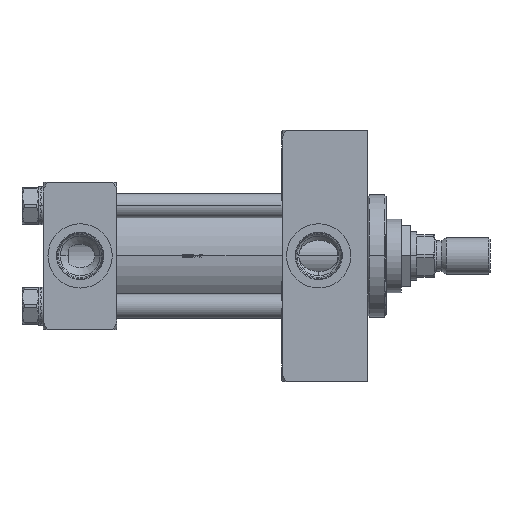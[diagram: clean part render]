
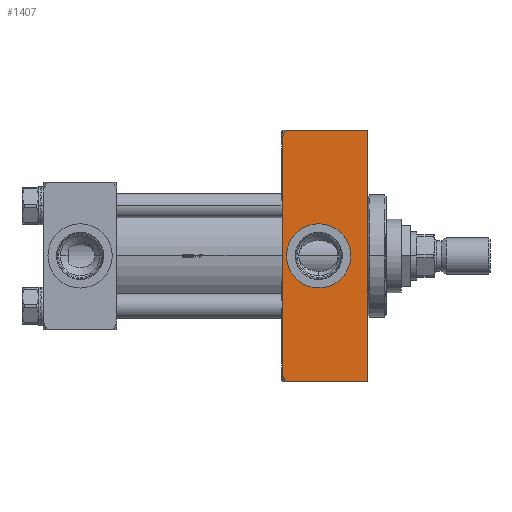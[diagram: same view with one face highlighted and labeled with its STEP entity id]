
A CAD part, top view. The second image highlights one B-rep face of the part: STEP entity #1407.
In plain terms, the highlighted planar face has unit normal (0, 0, 1).
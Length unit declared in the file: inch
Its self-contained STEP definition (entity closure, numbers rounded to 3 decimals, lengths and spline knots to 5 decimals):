
#587 = CARTESIAN_POINT ( 'NONE',  ( -3.125, 2.5625, 1.5 ) ) ;
#917 = CARTESIAN_POINT ( 'NONE',  ( -2.375, 0.65625, 1.5 ) ) ;
#1407 = ADVANCED_FACE ( 'NONE', ( #2612, #9584 ), #72615, .F. ) ;
#1452 = CARTESIAN_POINT ( 'NONE',  ( -3.11542, -2.42573, 1.5 ) ) ;
#2549 = DIRECTION ( 'NONE',  ( 0., 1., 0. ) ) ;
#2612 = FACE_OUTER_BOUND ( 'NONE', #48385, .T. ) ;
#3961 = B_SPLINE_CURVE_WITH_KNOTS ( 'NONE', 3,
 ( #25779, #58332, #8431, #38153, #26593, #57493, #69432, #13036, #1452, #63264, #64852, #20060 ),
 .UNSPECIFIED., .F., .F.,
 ( 4, 2, 2, 2, 2, 4 ),
 ( 0.00627, 0.00766, 0.00905, 0.00975, 0.01044, 0.01184 ),
 .UNSPECIFIED. ) ;
#5012 = ORIENTED_EDGE ( 'NONE', *, *, #13215, .F. ) ;
#5336 = CARTESIAN_POINT ( 'NONE',  ( -3.125, 2.3625, 1.5 ) ) ;
#5511 = LINE ( 'NONE', #24518, #12597 ) ;
#6083 = DIRECTION ( 'NONE',  ( 0., 1., 0. ) ) ;
#7045 = CIRCLE ( 'NONE', #64893, 0.65625 ) ;
#7243 = CARTESIAN_POINT ( 'NONE',  ( -3.04216, -2.5625, 1.5 ) ) ;
#7707 = EDGE_CURVE ( 'NONE', #18744, #30477, #38480, .T. ) ;
#8431 = CARTESIAN_POINT ( 'NONE',  ( -3.06292, -2.53233, 1.5 ) ) ;
#9584 = FACE_BOUND ( 'NONE', #80379, .T. ) ;
#9912 = CARTESIAN_POINT ( 'NONE',  ( -3.11296, 2.43498, 1.5 ) ) ;
#10869 = VERTEX_POINT ( 'NONE', #5336 ) ;
#11173 = ORIENTED_EDGE ( 'NONE', *, *, #72413, .T. ) ;
#11616 = CARTESIAN_POINT ( 'NONE',  ( -2.375, -0.65625, 1.5 ) ) ;
#11698 = ORIENTED_EDGE ( 'NONE', *, *, #7707, .F. ) ;
#12597 = VECTOR ( 'NONE', #73556, 39.37008 ) ;
#12622 = EDGE_CURVE ( 'NONE', #77218, #50499, #51222, .T. ) ;
#13036 = CARTESIAN_POINT ( 'NONE',  ( -3.11257, -2.43453, 1.5 ) ) ;
#13215 = EDGE_CURVE ( 'NONE', #28218, #10869, #5511, .T. ) ;
#13433 = ORIENTED_EDGE ( 'NONE', *, *, #12622, .T. ) ;
#13541 = VERTEX_POINT ( 'NONE', #11616 ) ;
#14191 = VECTOR ( 'NONE', #20829, 39.37008 ) ;
#15011 = DIRECTION ( 'NONE',  ( 0., 1., 0. ) ) ;
#15341 = CARTESIAN_POINT ( 'NONE',  ( -3.12232, 2.39953, 1.5 ) ) ;
#15442 = ORIENTED_EDGE ( 'NONE', *, *, #39897, .F. ) ;
#15767 = CARTESIAN_POINT ( 'NONE',  ( -3.09065, 2.48554, 1.5 ) ) ;
#16175 = CARTESIAN_POINT ( 'NONE',  ( -3.04216, 2.5625, 1.5 ) ) ;
#17826 = ORIENTED_EDGE ( 'NONE', *, *, #53983, .F. ) ;
#18170 = VECTOR ( 'NONE', #38862, 39.37008 ) ;
#18506 = CARTESIAN_POINT ( 'NONE',  ( -2.375, 0., 1.5 ) ) ;
#18744 = VERTEX_POINT ( 'NONE', #79857 ) ;
#19997 = B_SPLINE_CURVE_WITH_KNOTS ( 'NONE', 3,
 ( #78324, #60241, #15341, #9912, #26857, #15767, #51986, #40055, #58602, #16175 ),
 .UNSPECIFIED., .F., .F.,
 ( 4, 2, 2, 2, 4 ),
 ( 0.00308, 0.00446, 0.00584, 0.00722, 0.0086 ),
 .UNSPECIFIED. ) ;
#20060 = CARTESIAN_POINT ( 'NONE',  ( -3.125, -2.3625, 1.5 ) ) ;
#20829 = DIRECTION ( 'NONE',  ( 1., 0., 0. ) ) ;
#24518 = CARTESIAN_POINT ( 'NONE',  ( -3.125, -2.5625, 1.5 ) ) ;
#24633 = DIRECTION ( 'NONE',  ( 0., 0., -1. ) ) ;
#25779 = CARTESIAN_POINT ( 'NONE',  ( -3.04216, -2.5625, 1.5 ) ) ;
#26593 = CARTESIAN_POINT ( 'NONE',  ( -3.09096, -2.48492, 1.5 ) ) ;
#26857 = CARTESIAN_POINT ( 'NONE',  ( -3.10635, 2.4521, 1.5 ) ) ;
#28218 = VERTEX_POINT ( 'NONE', #51382 ) ;
#28647 = CIRCLE ( 'NONE', #45750, 0.65625 ) ;
#30477 = VERTEX_POINT ( 'NONE', #80591 ) ;
#30795 = CARTESIAN_POINT ( 'NONE',  ( -2.375, 0., 1.5 ) ) ;
#33175 = ORIENTED_EDGE ( 'NONE', *, *, #65200, .T. ) ;
#38153 = CARTESIAN_POINT ( 'NONE',  ( -3.08208, -2.50094, 1.5 ) ) ;
#38190 = DIRECTION ( 'NONE',  ( 0., 1., 0. ) ) ;
#38480 = LINE ( 'NONE', #587, #14191 ) ;
#38862 = DIRECTION ( 'NONE',  ( 1., 0., 0. ) ) ;
#39897 = EDGE_CURVE ( 'NONE', #77218, #28218, #3961, .T. ) ;
#40055 = CARTESIAN_POINT ( 'NONE',  ( -3.06273, 2.53261, 1.5 ) ) ;
#40078 = CARTESIAN_POINT ( 'NONE',  ( -1.375, -2.5625, 1.5 ) ) ;
#40495 = LINE ( 'NONE', #40078, #61717 ) ;
#43574 = DIRECTION ( 'NONE',  ( 0., 0., -1. ) ) ;
#45750 = AXIS2_PLACEMENT_3D ( 'NONE', #30795, #24633, #38190 ) ;
#48385 = EDGE_LOOP ( 'NONE', ( #15442, #13433, #69514, #11698, #17826, #5012 ) ) ;
#50499 = VERTEX_POINT ( 'NONE', #70188 ) ;
#51222 = LINE ( 'NONE', #75515, #18170 ) ;
#51382 = CARTESIAN_POINT ( 'NONE',  ( -3.125, -2.3625, 1.5 ) ) ;
#51886 = VERTEX_POINT ( 'NONE', #917 ) ;
#51986 = CARTESIAN_POINT ( 'NONE',  ( -3.08173, 2.50154, 1.5 ) ) ;
#52880 = DIRECTION ( 'NONE',  ( 0., 0., -1. ) ) ;
#53983 = EDGE_CURVE ( 'NONE', #10869, #18744, #19997, .T. ) ;
#57239 = EDGE_CURVE ( 'NONE', #50499, #30477, #40495, .T. ) ;
#57493 = CARTESIAN_POINT ( 'NONE',  ( -3.10257, -2.4601, 1.5 ) ) ;
#58332 = CARTESIAN_POINT ( 'NONE',  ( -3.05272, -2.54756, 1.5 ) ) ;
#58602 = CARTESIAN_POINT ( 'NONE',  ( -3.05263, 2.54769, 1.5 ) ) ;
#59910 = CARTESIAN_POINT ( 'NONE',  ( -3.125, -2.5625, 1.5 ) ) ;
#60241 = CARTESIAN_POINT ( 'NONE',  ( -3.125, 2.38099, 1.5 ) ) ;
#61717 = VECTOR ( 'NONE', #2549, 39.37008 ) ;
#62852 = AXIS2_PLACEMENT_3D ( 'NONE', #59910, #52880, #15011 ) ;
#63264 = CARTESIAN_POINT ( 'NONE',  ( -3.12243, -2.39896, 1.5 ) ) ;
#64852 = CARTESIAN_POINT ( 'NONE',  ( -3.125, -2.38088, 1.5 ) ) ;
#64893 = AXIS2_PLACEMENT_3D ( 'NONE', #18506, #43574, #6083 ) ;
#65200 = EDGE_CURVE ( 'NONE', #51886, #13541, #7045, .T. ) ;
#69432 = CARTESIAN_POINT ( 'NONE',  ( -3.10616, -2.4517, 1.5 ) ) ;
#69514 = ORIENTED_EDGE ( 'NONE', *, *, #57239, .T. ) ;
#70188 = CARTESIAN_POINT ( 'NONE',  ( -1.375, -2.5625, 1.5 ) ) ;
#72413 = EDGE_CURVE ( 'NONE', #13541, #51886, #28647, .T. ) ;
#72615 = PLANE ( 'NONE',  #62852 ) ;
#73556 = DIRECTION ( 'NONE',  ( 0., 1., 0. ) ) ;
#75515 = CARTESIAN_POINT ( 'NONE',  ( -3.125, -2.5625, 1.5 ) ) ;
#77218 = VERTEX_POINT ( 'NONE', #7243 ) ;
#78324 = CARTESIAN_POINT ( 'NONE',  ( -3.125, 2.3625, 1.5 ) ) ;
#79857 = CARTESIAN_POINT ( 'NONE',  ( -3.04216, 2.5625, 1.5 ) ) ;
#80379 = EDGE_LOOP ( 'NONE', ( #33175, #11173 ) ) ;
#80591 = CARTESIAN_POINT ( 'NONE',  ( -1.375, 2.5625, 1.5 ) ) ;
